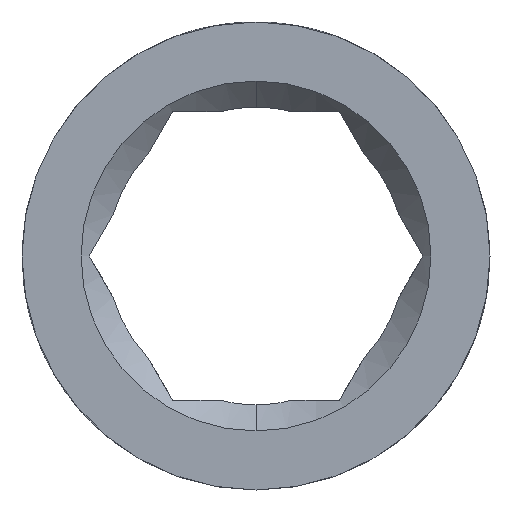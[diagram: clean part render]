
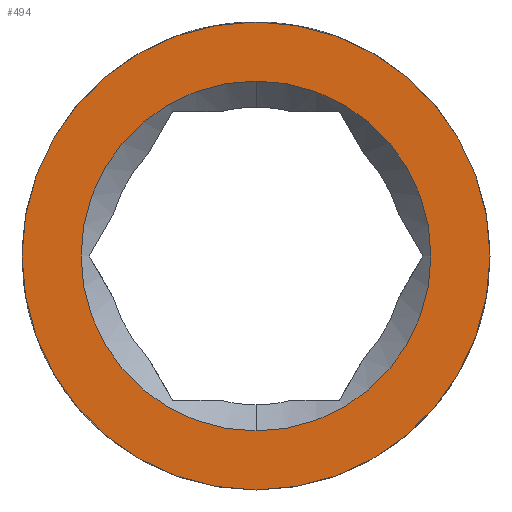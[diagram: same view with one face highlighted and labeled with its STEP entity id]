
A CAD part, front view. The second image highlights one B-rep face of the part: STEP entity #494.
In plain terms, the highlighted planar face has unit normal (0, -1, 0).
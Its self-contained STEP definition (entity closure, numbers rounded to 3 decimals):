
#10 = EDGE_LOOP ( 'NONE', ( #673, #672 ) ) ;
#197 = PLANE ( 'NONE',  #971 ) ;
#260 = DIRECTION ( 'NONE',  ( 0., -1., 0. ) ) ;
#288 = DIRECTION ( 'NONE',  ( 0., 0., -1. ) ) ;
#295 = CARTESIAN_POINT ( 'NONE',  ( 3.4, 0., 0. ) ) ;
#354 = DIRECTION ( 'NONE',  ( 0., -1., 0. ) ) ;
#358 = CARTESIAN_POINT ( 'NONE',  ( 0., 0., 0. ) ) ;
#373 = DIRECTION ( 'NONE',  ( 0., 0., -1. ) ) ;
#494 = ADVANCED_FACE ( 'NONE', ( #893, #902 ), #197, .T. ) ;
#587 = CARTESIAN_POINT ( 'NONE',  ( 0., 0., -5.35 ) ) ;
#607 = CARTESIAN_POINT ( 'NONE',  ( 0., 0., 5.35 ) ) ;
#622 = CARTESIAN_POINT ( 'NONE',  ( 0., 0., 4. ) ) ;
#623 = CARTESIAN_POINT ( 'NONE',  ( 0., 0., -4. ) ) ;
#672 = ORIENTED_EDGE ( 'NONE', *, *, #930, .T. ) ;
#673 = ORIENTED_EDGE ( 'NONE', *, *, #923, .T. ) ;
#675 = ORIENTED_EDGE ( 'NONE', *, *, #1117, .T. ) ;
#676 = ORIENTED_EDGE ( 'NONE', *, *, #962, .T. ) ;
#893 = FACE_BOUND ( 'NONE', #10, .T. ) ;
#902 = FACE_OUTER_BOUND ( 'NONE', #1707, .T. ) ;
#923 = EDGE_CURVE ( 'NONE', #1635, #1634, #1525, .T. ) ;
#930 = EDGE_CURVE ( 'NONE', #1634, #1635, #1528, .T. ) ;
#936 = AXIS2_PLACEMENT_3D ( 'NONE', #358, #354, #373 ) ;
#938 = AXIS2_PLACEMENT_3D ( 'NONE', #1322, #1319, #1320 ) ;
#941 = AXIS2_PLACEMENT_3D ( 'NONE', #1244, #1297, #1216 ) ;
#962 = EDGE_CURVE ( 'NONE', #1615, #1616, #1536, .T. ) ;
#971 = AXIS2_PLACEMENT_3D ( 'NONE', #295, #260, #288 ) ;
#1067 = AXIS2_PLACEMENT_3D ( 'NONE', #1451, #1452, #1453 ) ;
#1117 = EDGE_CURVE ( 'NONE', #1616, #1615, #1181, .T. ) ;
#1181 = CIRCLE ( 'NONE', #1067, 5.35 ) ;
#1216 = DIRECTION ( 'NONE',  ( 0., 0., -1. ) ) ;
#1244 = CARTESIAN_POINT ( 'NONE',  ( 0., 0., 0. ) ) ;
#1297 = DIRECTION ( 'NONE',  ( 0., 1., 0. ) ) ;
#1319 = DIRECTION ( 'NONE',  ( 0., 1., 0. ) ) ;
#1320 = DIRECTION ( 'NONE',  ( 0., 0., -1. ) ) ;
#1322 = CARTESIAN_POINT ( 'NONE',  ( 0., 0., 0. ) ) ;
#1451 = CARTESIAN_POINT ( 'NONE',  ( 0., 0., 0. ) ) ;
#1452 = DIRECTION ( 'NONE',  ( 0., -1., 0. ) ) ;
#1453 = DIRECTION ( 'NONE',  ( 0., 0., -1. ) ) ;
#1525 = CIRCLE ( 'NONE', #938, 4. ) ;
#1528 = CIRCLE ( 'NONE', #941, 4. ) ;
#1536 = CIRCLE ( 'NONE', #936, 5.35 ) ;
#1615 = VERTEX_POINT ( 'NONE', #587 ) ;
#1616 = VERTEX_POINT ( 'NONE', #607 ) ;
#1634 = VERTEX_POINT ( 'NONE', #622 ) ;
#1635 = VERTEX_POINT ( 'NONE', #623 ) ;
#1707 = EDGE_LOOP ( 'NONE', ( #676, #675 ) ) ;
